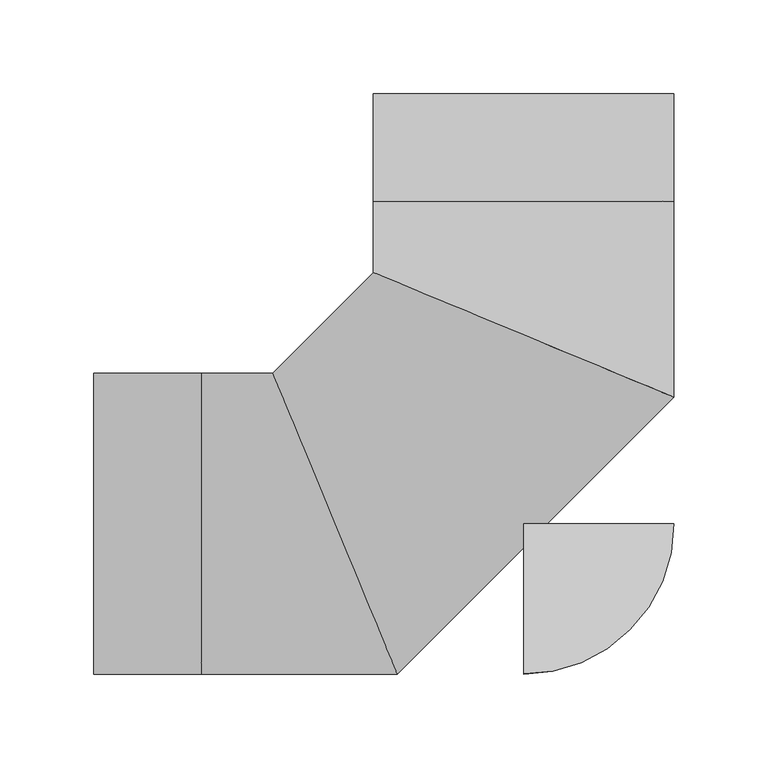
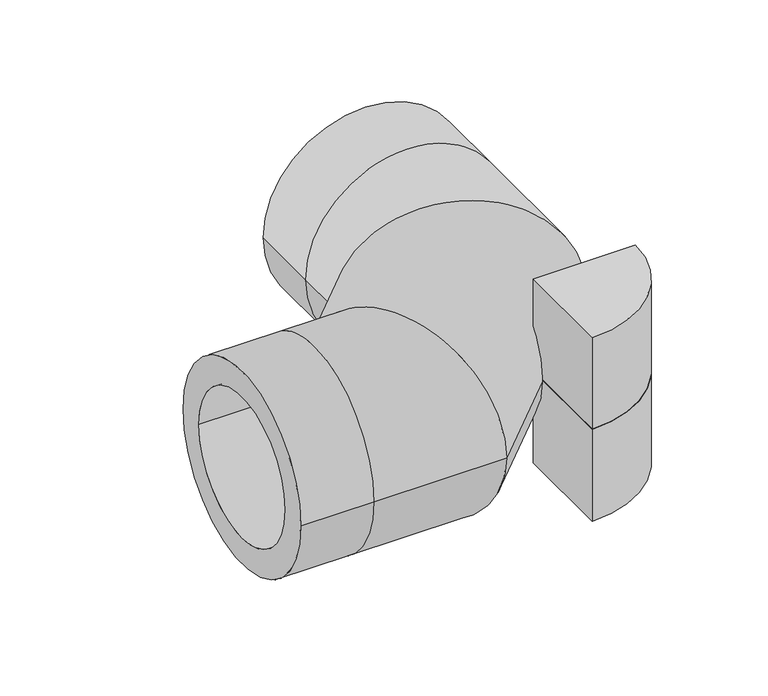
"""IFC4 building model written with IfcOpenShell, lengths in millimetres: pipe fitting geometry, Aquatherm - Elbow Green BW Segmented : SDR 7.4 FASER."""

from ifc_helpers import new_model, si_unit, point, frame, origin, origin_with_axes, origin_2d, place, context, project, spatial, polyline, circle_curve, ellipse_curve, trimmed, segment, composite_curve, outline, extrude, source, transform, mapped, element, save
from ifc_brep_helpers import plane_surface, cylinder_surface, revolved_surface, advanced_brep


def pipe_fitting_17f91992(model_context):
    return source(origin(), model_context, "Body", "SolidModel", [
        extrude(outline(composite_curve([segment(polyline([(0.0, -80.01), (0.0, 0.0), (80.01, 0.0)]), True, "CONTINUOUS"), segment(trimmed(circle_curve(origin_2d(), 80.01), [point((80.01, 0.0))], [point((0.0, -80.01))], False, "CARTESIAN"), True, "CONTINUOUS")], self_intersect=False)), frame((0.0, 0.0, -76.2), z_axis=(0.0, 0.0, 1.0), x_axis=(1.0, 0.0, 0.0)), (0.0, 0.0, 1.0), 76.2),
        extrude(outline(composite_curve([segment(trimmed(circle_curve(origin_2d(), 80.01), [point((80.01, 0.0))], [point((0.0, -80.01))], False, "CARTESIAN"), True, "CONTINUOUS"), segment(polyline([(0.0, -80.01), (0.0, 0.0), (80.01, 0.0)]), True, "CONTINUOUS")], self_intersect=False)), origin_with_axes(), (0.0, 0.0, 1.0), 76.2),
        advanced_brep(
        [(-228.6, -80.01, 0.0), (-228.6, 80.01, 0.0), (-228.6, -58.3811088, 0.0), (-228.6, 58.3811088, 0.0), (80.01, 228.6, 0.0), (-80.01, 228.6, 0.0), (58.3811088, 228.6, 0.0), (-58.3811088, 228.6, 0.0), (-171.45, -80.01, 0.0), (-171.45, 80.01, 0.0), (-171.45, -58.3811088, 0.0), (-171.45, 58.3811088, 0.0), (-67.2918576, -80.01, 0.0), (-133.5743119, 80.01, 0.0), (-76.2508377, -58.3811088, 0.0), (-124.6153318, 58.3811088, 0.0), (80.01, 67.2918576, 0.0), (-80.01, 133.5743119, 0.0), (58.3811088, 76.2508377, 0.0), (-58.3811088, 124.6153318, 0.0), (-80.01, 171.45, 0.0), (80.01, 171.45, 0.0), (-58.3811088, 171.45, 0.0), (58.3811088, 171.45, 0.0)],
        [
            (0, 1, circle_curve(frame((-228.6, 0.0, 0.0), z_axis=(-1.0, 0.0, 0.0), x_axis=(0.0, 1.0, 0.0)), 80.01)),
            (1, 0, circle_curve(frame((-228.6, 0.0, 0.0), z_axis=(-1.0, 0.0, 0.0), x_axis=(0.0, 1.0, 0.0)), 80.01)),
            (2, 3, circle_curve(frame((-228.6, 0.0, 0.0), z_axis=(1.0, 0.0, 0.0), x_axis=(0.0, 1.0, 0.0)), 58.3811088)),
            (3, 2, circle_curve(frame((-228.6, 0.0, 0.0), z_axis=(1.0, 0.0, 0.0), x_axis=(0.0, 1.0, 0.0)), 58.3811088)),
            (4, 5, circle_curve(frame((0.0, 228.6, 0.0), z_axis=(0.0, 1.0, 0.0), x_axis=(-1.0, 0.0, 0.0)), 80.01)),
            (5, 4, circle_curve(frame((0.0, 228.6, 0.0), z_axis=(0.0, 1.0, 0.0), x_axis=(-1.0, 0.0, 0.0)), 80.01)),
            (6, 7, circle_curve(frame((0.0, 228.6, 0.0), z_axis=(0.0, -1.0, 0.0), x_axis=(-1.0, 0.0, 0.0)), 58.3811088)),
            (7, 6, circle_curve(frame((0.0, 228.6, 0.0), z_axis=(0.0, -1.0, 0.0), x_axis=(-1.0, 0.0, 0.0)), 58.3811088)),
            (0, 8),
            (8, 9, circle_curve(frame((-171.45, 0.0, 0.0), z_axis=(-1.0, 0.0, 0.0), x_axis=(0.0, 1.0, 0.0)), 80.01)),
            (9, 1),
            (9, 8, circle_curve(frame((-171.45, 0.0, 0.0), z_axis=(-1.0, 0.0, 0.0), x_axis=(0.0, 1.0, 0.0)), 80.01)),
            (2, 10),
            (10, 11, circle_curve(frame((-171.45, 0.0, 0.0), z_axis=(1.0, 0.0, 0.0), x_axis=(0.0, 1.0, 0.0)), 58.3811088)),
            (11, 3),
            (11, 10, circle_curve(frame((-171.45, 0.0, 0.0), z_axis=(1.0, 0.0, 0.0), x_axis=(0.0, 1.0, 0.0)), 58.3811088)),
            (8, 12),
            (12, 13, ellipse_curve(frame((-100.4330847, 0.0, 0.0), z_axis=(-0.9238795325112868, -0.3826834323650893, 0.0), x_axis=(-0.3826834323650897, 0.9238795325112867, 0.0)), 86.6021999, 80.01)),
            (13, 9),
            (13, 12, ellipse_curve(frame((-100.4330847, 0.0, 0.0), z_axis=(-0.9238795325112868, -0.3826834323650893, 0.0), x_axis=(-0.3826834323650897, 0.9238795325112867, 0.0)), 86.6021999, 80.01)),
            (10, 14),
            (14, 15, ellipse_curve(frame((-100.4330847, 0.0, 0.0), z_axis=(0.9238795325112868, 0.3826834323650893, 0.0), x_axis=(0.3826834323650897, -0.9238795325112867, 0.0)), 63.1912568, 58.3811088)),
            (15, 11),
            (15, 14, ellipse_curve(frame((-100.4330847, 0.0, 0.0), z_axis=(0.9238795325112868, 0.3826834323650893, 0.0), x_axis=(0.3826834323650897, -0.9238795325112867, 0.0)), 63.1912568, 58.3811088)),
            (12, 16),
            (16, 17, ellipse_curve(frame((0.0, 100.4330847, 0.0), z_axis=(-0.3826834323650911, -0.9238795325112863, 0.0), x_axis=(-0.923879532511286, 0.3826834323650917, 0.0)), 86.6021999, 80.01)),
            (17, 13),
            (17, 16, ellipse_curve(frame((0.0, 100.4330847, 0.0), z_axis=(-0.3826834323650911, -0.9238795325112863, 0.0), x_axis=(-0.923879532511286, 0.3826834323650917, 0.0)), 86.6021999, 80.01)),
            (14, 18),
            (18, 19, ellipse_curve(frame((0.0, 100.4330847, 0.0), z_axis=(0.3826834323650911, 0.9238795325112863, 0.0), x_axis=(0.923879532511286, -0.3826834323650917, 0.0)), 63.1912568, 58.3811088)),
            (19, 15),
            (19, 18, ellipse_curve(frame((0.0, 100.4330847, 0.0), z_axis=(0.3826834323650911, 0.9238795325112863, 0.0), x_axis=(0.923879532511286, -0.3826834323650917, 0.0)), 63.1912568, 58.3811088)),
            (20, 21, circle_curve(frame((0.0, 171.45, 0.0), z_axis=(0.0, 1.0, 0.0), x_axis=(-1.0, 0.0, 0.0)), 80.01)),
            (21, 4),
            (5, 20),
            (21, 20, circle_curve(frame((0.0, 171.45, 0.0), z_axis=(0.0, 1.0, 0.0), x_axis=(-1.0, 0.0, 0.0)), 80.01)),
            (22, 23, circle_curve(frame((0.0, 171.45, 0.0), z_axis=(0.0, -1.0, 0.0), x_axis=(-1.0, 0.0, 0.0)), 58.3811088)),
            (23, 6),
            (7, 22),
            (23, 22, circle_curve(frame((0.0, 171.45, 0.0), z_axis=(0.0, -1.0, 0.0), x_axis=(-1.0, 0.0, 0.0)), 58.3811088)),
            (16, 21),
            (20, 17),
            (18, 23),
            (22, 19),
        ],
        [
            plane_surface(frame((-228.6, 0.0, 0.0), z_axis=(-1.0, 0.0, 0.0), x_axis=(0.0, 0.0, 1.0))),
            plane_surface(frame((0.0, 228.6, 0.0), z_axis=(0.0, 1.0, 0.0), x_axis=(0.0, 0.0, 1.0))),
            cylinder_surface(frame((-228.6, 0.0, 0.0), z_axis=(-1.0, 0.0, 0.0), x_axis=(0.0, 1.0, 0.0)), 80.01),
            revolved_surface(polyline([(-171.45, 58.3811088, 0.0), (-228.6, 58.3811088, 0.0)]), (-228.6, 0.0, 0.0), (1.0, 0.0, 0.0)),
            cylinder_surface(frame((-171.45, 0.0, 0.0), z_axis=(-1.0, 0.0, 0.0), x_axis=(0.0, 1.0, 0.0)), 80.01),
            revolved_surface(polyline([(-76.25083765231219, 58.3811088, 0.0), (-171.45, 58.3811088, 0.0)]), (-171.45, 0.0, 0.0), (1.0, 0.0, 0.0)),
            cylinder_surface(frame((-100.4330847, 0.0, 0.0), z_axis=(-0.7071067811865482, -0.7071067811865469, 0.0), x_axis=(-0.7071067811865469, 0.7071067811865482, 0.0)), 80.01),
            revolved_surface(polyline([(-24.18224702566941, 158.81419352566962, 0.0), (-158.81419352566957, 24.182247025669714, 0.0)]), (-100.4330847, 0.0, 0.0), (0.7071067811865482, 0.7071067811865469, 0.0)),
            cylinder_surface(frame((0.0, 171.45, 0.0), z_axis=(0.0, -1.0, 0.0), x_axis=(-1.0, 0.0, 0.0)), 80.01),
            revolved_surface(polyline([(-58.3811088, 228.6, 0.0), (-58.3811088, 171.45, 0.0)]), (0.0, 171.45, 0.0), (0.0, 1.0, 0.0)),
            cylinder_surface(frame((0.0, 100.4330847, 0.0), z_axis=(0.0, -1.0, 0.0), x_axis=(-1.0, 0.0, 0.0)), 80.01),
            revolved_surface(polyline([(-58.3811088, 171.45, 0.0), (-58.3811088, 76.25083765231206, 0.0)]), (0.0, 100.4330847, 0.0), (0.0, 1.0, 0.0)),
        ],
        [
            (0, [[1, 2], [3, 4]]),
            (1, [[5, 6], [7, 8]]),
            (2, [[-1, 9, 10, 11]]),
            (2, [[-2, -11, 12, -9]]),
            (3, [[-3, 13, 14, 15]]),
            (3, [[-4, -15, 16, -13]]),
            (4, [[-10, 17, 18, 19]]),
            (4, [[-12, -19, 20, -17]]),
            (5, [[-14, 21, 22, 23]]),
            (5, [[-16, -23, 24, -21]]),
            (6, [[-18, 25, 26, 27]]),
            (6, [[-20, -27, 28, -25]]),
            (7, [[-22, 29, 30, 31]]),
            (7, [[-24, -31, 32, -29]]),
            (8, [[33, 34, -6, 35]]),
            (8, [[36, -35, -5, -34]]),
            (9, [[37, 38, -8, 39]]),
            (9, [[40, -39, -7, -38]]),
            (10, [[-26, 41, -33, 42]]),
            (10, [[-28, -42, -36, -41]]),
            (11, [[-30, 43, -37, 44]]),
            (11, [[-32, -44, -40, -43]]),
        ],
    ),
    ])


if __name__ == "__main__":
    model = new_model("IFC4")
    model_context = context("Model", 3, world=origin())
    ifc_project = project(units=[si_unit("LENGTHUNIT", "METRE", prefix="MILLI")], contexts=[model_context])
    site = spatial("IfcSite", under=ifc_project)
    building = spatial("IfcBuilding", under=site)
    placement = place(None, origin())
    pipe_fitting_shape = pipe_fitting_17f91992(model_context)
    element("IfcPipeFitting", 1, ObjectType="Aquatherm - Elbow Green BW Segmented : SDR 7.4 FASER", at=placement, inside=building, context=model_context, shape_type="MappedRepresentation", body=[
        mapped(pipe_fitting_shape, transform((0.0, 0.0, 0.0), x_axis=(1.0, 0.0, 0.0), y_axis=(0.0, 1.0, 0.0), z_axis=(0.0, 0.0, 1.0))),
    ])
    save(model, "model.ifc")
